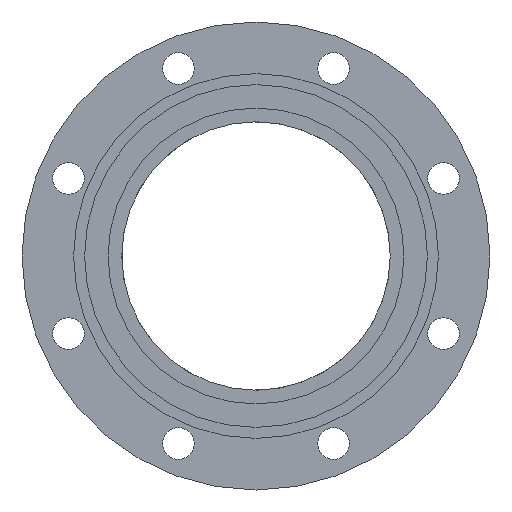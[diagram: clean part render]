
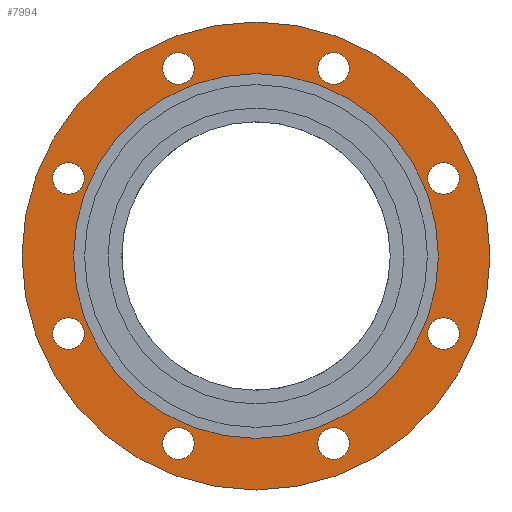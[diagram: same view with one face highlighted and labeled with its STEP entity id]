
A CAD part, left-side view. The second image highlights one B-rep face of the part: STEP entity #7994.
In plain terms, the highlighted planar face has unit normal (-1, 0, 0).
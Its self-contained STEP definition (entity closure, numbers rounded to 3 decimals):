
#7994=ADVANCED_FACE('',(#14294,#14296,#14298,#14300,#14302,#14304,#14306,#14308,
#14310,#14312),#14314,.T.);
#14294=FACE_BOUND('',#14295,.T.);
#14295=EDGE_LOOP('',(#19346));
#14296=FACE_BOUND('',#14297,.T.);
#14297=EDGE_LOOP('',(#19347));
#14298=FACE_BOUND('',#14299,.T.);
#14299=EDGE_LOOP('',(#19348));
#14300=FACE_BOUND('',#14301,.T.);
#14301=EDGE_LOOP('',(#19349));
#14302=FACE_BOUND('',#14303,.T.);
#14303=EDGE_LOOP('',(#19350));
#14304=FACE_BOUND('',#14305,.T.);
#14305=EDGE_LOOP('',(#19351));
#14306=FACE_BOUND('',#14307,.T.);
#14307=EDGE_LOOP('',(#19352));
#14308=FACE_BOUND('',#14309,.T.);
#14309=EDGE_LOOP('',(#19353));
#14310=FACE_BOUND('',#14311,.T.);
#14311=EDGE_LOOP('',(#19354));
#14312=FACE_BOUND('',#14313,.T.);
#14313=EDGE_LOOP('',(#19355));
#14314=PLANE('',#14315);
#14315=AXIS2_PLACEMENT_3D('',#14316,#14317,#14318);
#14316=CARTESIAN_POINT('',(10139.443,556.432,0.));
#14317=DIRECTION('',(-1.,0.,0.));
#14318=DIRECTION('',(0.,0.,1.));
#19346=ORIENTED_EDGE('',*,*,#21871,.F.);
#19347=ORIENTED_EDGE('',*,*,#21812,.T.);
#19348=ORIENTED_EDGE('',*,*,#21814,.T.);
#19349=ORIENTED_EDGE('',*,*,#21816,.T.);
#19350=ORIENTED_EDGE('',*,*,#21834,.T.);
#19351=ORIENTED_EDGE('',*,*,#21836,.T.);
#19352=ORIENTED_EDGE('',*,*,#21838,.T.);
#19353=ORIENTED_EDGE('',*,*,#21840,.T.);
#19354=ORIENTED_EDGE('',*,*,#21870,.T.);
#19355=ORIENTED_EDGE('',*,*,#21810,.T.);
#21810=EDGE_CURVE('',#25941,#25941,#25942,.T.);
#21812=EDGE_CURVE('',#25945,#25945,#25946,.T.);
#21814=EDGE_CURVE('',#25949,#25949,#25950,.T.);
#21816=EDGE_CURVE('',#25953,#25953,#25954,.T.);
#21834=EDGE_CURVE('',#25989,#25989,#25990,.T.);
#21836=EDGE_CURVE('',#25993,#25993,#25994,.T.);
#21838=EDGE_CURVE('',#25997,#25997,#25998,.T.);
#21840=EDGE_CURVE('',#26001,#26001,#26002,.T.);
#21870=EDGE_CURVE('',#26061,#26061,#26062,.T.);
#21871=EDGE_CURVE('',#26063,#26063,#26064,.T.);
#25941=VERTEX_POINT('',#35017);
#25942=CIRCLE('',#35018,11.5);
#25945=VERTEX_POINT('',#35027);
#25946=CIRCLE('',#35028,11.5);
#25949=VERTEX_POINT('',#35037);
#25950=CIRCLE('',#35038,11.5);
#25953=VERTEX_POINT('',#35047);
#25954=CIRCLE('',#35048,11.5);
#25989=VERTEX_POINT('',#35137);
#25990=CIRCLE('',#35138,11.5);
#25993=VERTEX_POINT('',#35147);
#25994=CIRCLE('',#35148,11.5);
#25997=VERTEX_POINT('',#35157);
#25998=CIRCLE('',#35158,11.5);
#26001=VERTEX_POINT('',#35167);
#26002=CIRCLE('',#35168,11.5);
#26061=VERTEX_POINT('',#35721);
#26062=CIRCLE('',#35722,132.5);
#26063=VERTEX_POINT('',#35726);
#26064=CIRCLE('',#35727,170.);
#35017=CARTESIAN_POINT('',(10139.443,318.486,-136.272));
#35018=AXIS2_PLACEMENT_3D('',#35019,#35020,#35021);
#35019=CARTESIAN_POINT('',(10139.443,329.986,-136.272));
#35020=DIRECTION('',(1.,0.,0.));
#35021=DIRECTION('',(0.,-1.,0.));
#35027=CARTESIAN_POINT('',(10139.443,238.66,56.446));
#35028=AXIS2_PLACEMENT_3D('',#35029,#35030,#35031);
#35029=CARTESIAN_POINT('',(10139.443,250.16,56.446));
#35030=DIRECTION('',(1.,0.,0.));
#35031=DIRECTION('',(0.,-1.,0.));
#35037=CARTESIAN_POINT('',(10139.443,431.378,136.272));
#35038=AXIS2_PLACEMENT_3D('',#35039,#35040,#35041);
#35039=CARTESIAN_POINT('',(10139.443,442.878,136.272));
#35040=DIRECTION('',(1.,0.,0.));
#35041=DIRECTION('',(0.,-1.,0.));
#35047=CARTESIAN_POINT('',(10139.443,511.204,-56.446));
#35048=AXIS2_PLACEMENT_3D('',#35049,#35050,#35051);
#35049=CARTESIAN_POINT('',(10139.443,522.704,-56.446));
#35050=DIRECTION('',(1.,0.,0.));
#35051=DIRECTION('',(0.,-1.,0.));
#35137=CARTESIAN_POINT('',(10139.443,511.204,56.446));
#35138=AXIS2_PLACEMENT_3D('',#35139,#35140,#35141);
#35139=CARTESIAN_POINT('',(10139.443,522.704,56.446));
#35140=DIRECTION('',(1.,0.,0.));
#35141=DIRECTION('',(0.,-1.,0.));
#35147=CARTESIAN_POINT('',(10139.443,318.486,136.272));
#35148=AXIS2_PLACEMENT_3D('',#35149,#35150,#35151);
#35149=CARTESIAN_POINT('',(10139.443,329.986,136.272));
#35150=DIRECTION('',(1.,0.,0.));
#35151=DIRECTION('',(0.,-1.,0.));
#35157=CARTESIAN_POINT('',(10139.443,238.66,-56.446));
#35158=AXIS2_PLACEMENT_3D('',#35159,#35160,#35161);
#35159=CARTESIAN_POINT('',(10139.443,250.16,-56.446));
#35160=DIRECTION('',(1.,0.,0.));
#35161=DIRECTION('',(0.,-1.,0.));
#35167=CARTESIAN_POINT('',(10139.443,431.378,-136.272));
#35168=AXIS2_PLACEMENT_3D('',#35169,#35170,#35171);
#35169=CARTESIAN_POINT('',(10139.443,442.878,-136.272));
#35170=DIRECTION('',(1.,0.,0.));
#35171=DIRECTION('',(0.,-1.,0.));
#35721=CARTESIAN_POINT('',(10139.443,253.932,0.));
#35722=AXIS2_PLACEMENT_3D('',#35723,#35724,#35725);
#35723=CARTESIAN_POINT('',(10139.443,386.432,0.));
#35724=DIRECTION('',(1.,0.,0.));
#35725=DIRECTION('',(0.,1.,0.));
#35726=CARTESIAN_POINT('',(10139.443,216.432,0.));
#35727=AXIS2_PLACEMENT_3D('',#35728,#35729,#35730);
#35728=CARTESIAN_POINT('',(10139.443,386.432,0.));
#35729=DIRECTION('',(1.,0.,0.));
#35730=DIRECTION('',(0.,1.,0.));
